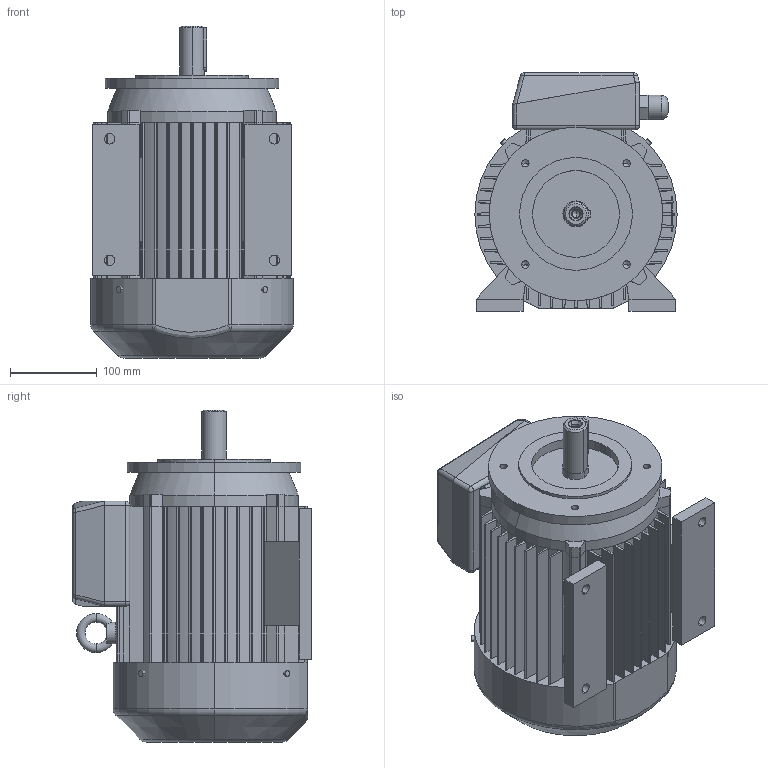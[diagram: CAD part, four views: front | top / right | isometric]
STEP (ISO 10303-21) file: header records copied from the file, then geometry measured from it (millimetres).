
FILE_DESCRIPTION (( 'STEP AP203' ), '1' );
FILE_NAME ('SLg 112M-B34-C1.STEP', '2010-04-14T09:49:56', ( 'INDUKTA' ), ( 'CANTONI MOTOR' ), 'SwSTEP 2.0', 'SolidWorks 2003064', '' );
FILE_SCHEMA (( 'CONFIG_CONTROL_DESIGN' ));
Length unit declared in the file: millimetre
Products named in the file (1): SLg 112M-B34-C1
Bounding box: 233 x 275 x 382.5 mm (x, y, z)
Volume: 12412162.4 mm3; surface area: 779662.7 mm2
Topology: 14 solids, 14 shells, 573 faces, 1540 edges, 983 vertices
Faces by surface type: plane 272, cylinder 213, bspline 43, cone 22, torus 13, sphere 10
Entity records: 21619 total; most frequent: CARTESIAN_POINT 7338, ORIENTED_EDGE 3040, DIRECTION 2884, EDGE_CURVE 1520, VERTEX_POINT 983, AXIS2_PLACEMENT_3D 976, VECTOR 932, LINE 932
